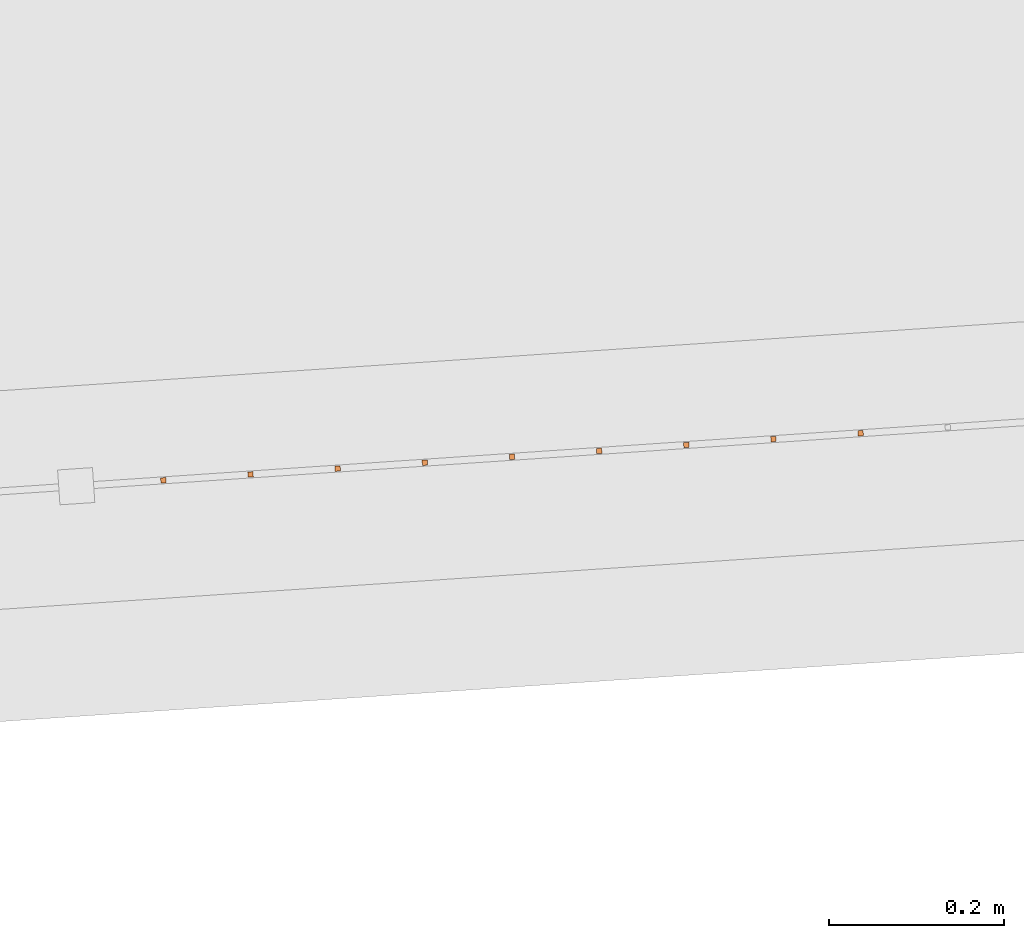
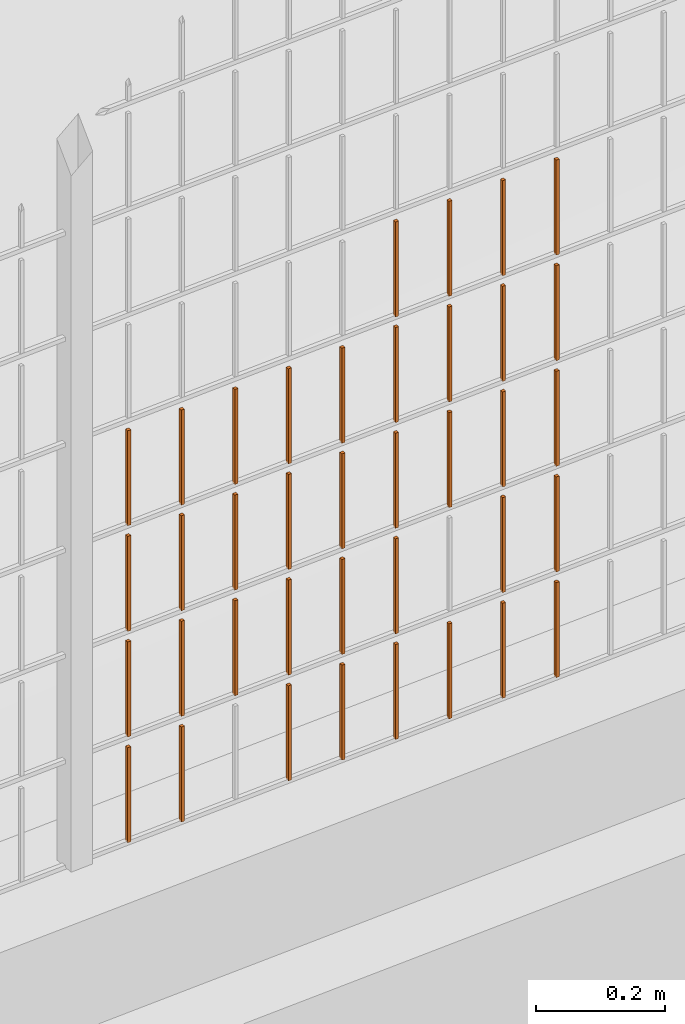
# One storey, part 112 of 1809: 38 proxies, 1 element without a shape of its own.
"""IFC2X3 building model written with IfcOpenShell, lengths in millimetres."""

from ifc_helpers import new_model, entity, si_unit, converted_unit, derived_unit, money_unit, direction, frame, origin_with_axes, place, context, subcontext, project, spatial, faceted_brep, source, transform, mapped, material, type_object, element, aggregate, save


model = new_model("IFC2X3")

# Units and contexts
model_context = context("Model", 3, precision=0.01, world=origin_with_axes(), true_north=direction((0.0, 1.0)))
body_context = subcontext(model_context, "Body", "Model", "MODEL_VIEW")
ifc_project = project(units=[si_unit("LENGTHUNIT", "METRE", prefix="MILLI"), si_unit("AREAUNIT", "SQUARE_METRE"), si_unit("VOLUMEUNIT", "CUBIC_METRE"), converted_unit("PLANEANGLEUNIT", "DEGREE", entity("IfcPlaneAngleMeasure", 0.0174532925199), si_unit("PLANEANGLEUNIT", "RADIAN"), dimensions=[0, 0, 0, 0, 0, 0, 0]), si_unit("SOLIDANGLEUNIT", "STERADIAN"), money_unit("EUR"), converted_unit("TIMEUNIT", "Year", entity("IfcTimeMeasure", 31556926.0), si_unit("TIMEUNIT", "SECOND"), dimensions=[0, 0, 1, 0, 0, 0, 0]), si_unit("MASSUNIT", "GRAM", prefix="KILO"), si_unit("THERMODYNAMICTEMPERATUREUNIT", "DEGREE_CELSIUS"), si_unit("LUMINOUSINTENSITYUNIT", "LUMEN"), si_unit("ENERGYUNIT", "JOULE", prefix="MEGA"), derived_unit("THERMALCONDUCTANCEUNIT", [(si_unit("POWERUNIT", "WATT"), 1), (si_unit("LENGTHUNIT", "METRE"), -1), (si_unit("THERMODYNAMICTEMPERATUREUNIT", "KELVIN"), -1)]), derived_unit("SPECIFICHEATCAPACITYUNIT", [(si_unit("ENERGYUNIT", "JOULE"), 1), (si_unit("MASSUNIT", "GRAM", prefix="KILO"), -1), (si_unit("THERMODYNAMICTEMPERATUREUNIT", "KELVIN"), -1)]), derived_unit("MASSDENSITYUNIT", [(si_unit("MASSUNIT", "GRAM", prefix="KILO"), 1), (si_unit("VOLUMEUNIT", "CUBIC_METRE"), -1)])], contexts=[model_context])

# Site, building, storey
site_placement = place(None, origin_with_axes())
site = spatial("IfcSite", under=ifc_project, at=site_placement, Name="Politse- ja Piirivalveameti ning Päästeameti ühishoone", CompositionType="ELEMENT")
building_placement = place(site_placement, origin_with_axes())
building = spatial("IfcBuilding", under=site, at=building_placement, Name="Politse- ja Piirivalveameti ning Päästeameti ühishoone", CompositionType="ELEMENT")
storey_placement = place(building_placement, origin_with_axes())
storey = spatial("IfcBuildingStorey", under=building, at=storey_placement, Name="Esimene korrus", CompositionType="ELEMENT", Elevation=0.0)

# Proxies
building_element_proxy_type_1 = type_object("IfcBuildingElementProxyType", Name="Railing Type", PredefinedType="NOTDEFINED")
proxy_1_placement = place(storey_placement, frame((89252.001212, -29183.4766571, 203.661247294), z_axis=(0.0, 0.0, 1.0), x_axis=(1.0, 0.0, 0.0)))
proxy_1 = element("IfcBuildingElementProxy", 1, at=proxy_1_placement, inside=storey, type_object=building_element_proxy_type_1, Name="PIIRDEAED")
ifc_material = material(Name="ET-03_Raud")
building_element_proxy_type_2 = type_object("IfcBuildingElementProxyType", Name="IfcBuildingElementProxy", PredefinedType="NOTDEFINED")
shared_shape_1 = source(origin_with_axes(), body_context, "Body", "Brep", [
    faceted_brep([(3.0, 3.0, -0.000752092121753), (-3.0, 3.0, -0.000752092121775), (-3.0, 3.0, 179.99926046), (3.0, 3.0, 179.99926046), (3.0, -3.0, 0.000752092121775), (-3.0, -3.0, 0.000752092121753), (-3.0, -3.0, 180.000764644), (3.0, -3.0, 180.000764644)], [[[0, 1, 2, 3]], [[0, 4, 5, 1]], [[1, 5, 6, 2]], [[3, 2, 6, 7]], [[4, 0, 3, 7]], [[5, 4, 7, 6]]]),
])
proxy_2_placement = place(proxy_1_placement, frame((-91318.6048115, -23466.0018926, 204.288885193), z_axis=(0.0, 0.0, 1.0), x_axis=(1.0, 0.0, 0.0)))
proxy_2 = element("IfcBuildingElementProxy", 2, at=proxy_2_placement, type_object=building_element_proxy_type_2, material=ifc_material, Name="BALUSTER - 001", context=body_context, shape_type="MappedRepresentation", body=[
    mapped(shared_shape_1, transform((0.0, 0.0, 0.0), x_axis=(-0.0673926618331, 0.997726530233, 0.0), y_axis=(-0.997726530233, -0.0673926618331, 0.0), z_axis=(0.0, 0.0, 1.0))),
])
proxy_3_placement = place(proxy_1_placement, frame((-91917.2407297, -23506.4374897, 604.138466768), z_axis=(0.0, 0.0, 1.0), x_axis=(1.0, 0.0, 0.0)))
proxy_3 = element("IfcBuildingElementProxy", 3, at=proxy_3_placement, type_object=building_element_proxy_type_2, material=ifc_material, Name="BALUSTER - 001", context=body_context, shape_type="MappedRepresentation", body=[
    mapped(shared_shape_1, transform((0.0, 0.0, 0.0), x_axis=(-0.0673926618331, 0.997726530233, 0.0), y_axis=(-0.997726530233, -0.0673926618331, 0.0), z_axis=(0.0, 0.0, 1.0))),
])
shared_shape_2 = source(origin_with_axes(), body_context, "Body", "Brep", [
    faceted_brep([(3.0, 3.0, -0.000752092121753), (-3.0, 3.0, -0.000752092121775), (-3.0, 3.0, 179.99926046), (3.0, 3.0, 179.99926046), (3.0, -3.0, 0.000752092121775), (-3.0, -3.0, 0.000752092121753), (-3.0, -3.0, 180.000764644), (3.0, -3.0, 180.000764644)], [[[0, 1, 2, 3]], [[0, 4, 5, 1]], [[1, 5, 6, 2]], [[3, 2, 6, 7]], [[4, 0, 3, 7]], [[5, 4, 7, 6]]]),
])
proxy_4_placement = place(proxy_1_placement, frame((-91318.6048115, -23466.0018926, 804.288885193), z_axis=(0.0, 0.0, 1.0), x_axis=(1.0, 0.0, 0.0)))
proxy_4 = element("IfcBuildingElementProxy", 4, at=proxy_4_placement, type_object=building_element_proxy_type_2, material=ifc_material, Name="BALUSTER - 001", context=body_context, shape_type="MappedRepresentation", body=[
    mapped(shared_shape_2, transform((0.0, 0.0, 0.0), x_axis=(-0.0673926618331, 0.997726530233, 0.0), y_axis=(-0.997726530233, -0.0673926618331, 0.0), z_axis=(0.0, 0.0, 1.0))),
])
shared_shape_3 = source(origin_with_axes(), body_context, "Body", "Brep", [
    faceted_brep([(3.0, 3.0, -0.000752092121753), (-3.0, 3.0, -0.000752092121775), (-3.0, 3.0, 179.99926046), (3.0, 3.0, 179.99926046), (3.0, -3.0, 0.000752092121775), (-3.0, -3.0, 0.000752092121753), (-3.0, -3.0, 180.000764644), (3.0, -3.0, 180.000764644)], [[[0, 1, 2, 3]], [[0, 4, 5, 1]], [[1, 5, 6, 2]], [[3, 2, 6, 7]], [[4, 0, 3, 7]], [[5, 4, 7, 6]]]),
])
proxy_5_placement = place(proxy_1_placement, frame((-91418.3774645, -23472.7411588, 804.263815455), z_axis=(0.0, 0.0, 1.0), x_axis=(1.0, 0.0, 0.0)))
proxy_5 = element("IfcBuildingElementProxy", 5, at=proxy_5_placement, type_object=building_element_proxy_type_2, material=ifc_material, Name="BALUSTER - 001", context=body_context, shape_type="MappedRepresentation", body=[
    mapped(shared_shape_3, transform((0.0, 0.0, 0.0), x_axis=(-0.0673926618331, 0.997726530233, 0.0), y_axis=(-0.997726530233, -0.0673926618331, 0.0), z_axis=(0.0, 0.0, 1.0))),
])
shared_shape_4 = source(origin_with_axes(), body_context, "Body", "Brep", [
    faceted_brep([(3.0, 3.0, -0.000752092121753), (-3.0, 3.0, -0.000752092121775), (-3.0, 3.0, 179.99926046), (3.0, 3.0, 179.99926046), (3.0, -3.0, 0.000752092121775), (-3.0, -3.0, 0.000752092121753), (-3.0, -3.0, 180.000764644), (3.0, -3.0, 180.000764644)], [[[0, 1, 2, 3]], [[0, 4, 5, 1]], [[1, 5, 6, 2]], [[3, 2, 6, 7]], [[4, 0, 3, 7]], [[5, 4, 7, 6]]]),
])
proxy_6_placement = place(proxy_1_placement, frame((-91917.2407297, -23506.4374897, 204.138466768), z_axis=(0.0, 0.0, 1.0), x_axis=(1.0, 0.0, 0.0)))
proxy_6 = element("IfcBuildingElementProxy", 6, at=proxy_6_placement, type_object=building_element_proxy_type_2, material=ifc_material, Name="BALUSTER - 001", context=body_context, shape_type="MappedRepresentation", body=[
    mapped(shared_shape_4, transform((0.0, 0.0, 0.0), x_axis=(-0.0673926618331, 0.997726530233, 0.0), y_axis=(-0.997726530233, -0.0673926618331, 0.0), z_axis=(0.0, 0.0, 1.0))),
])
proxy_7_placement = place(proxy_1_placement, frame((-91318.6048115, -23466.0018926, 404.288885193), z_axis=(0.0, 0.0, 1.0), x_axis=(1.0, 0.0, 0.0)))
proxy_7 = element("IfcBuildingElementProxy", 7, at=proxy_7_placement, type_object=building_element_proxy_type_2, material=ifc_material, Name="BALUSTER - 001", context=body_context, shape_type="MappedRepresentation", body=[
    mapped(shared_shape_4, transform((0.0, 0.0, 0.0), x_axis=(-0.0673926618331, 0.997726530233, 0.0), y_axis=(-0.997726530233, -0.0673926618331, 0.0), z_axis=(0.0, 0.0, 1.0))),
])
proxy_8_placement = place(proxy_1_placement, frame((-91917.2407297, -23506.4374897, 404.138466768), z_axis=(0.0, 0.0, 1.0), x_axis=(1.0, 0.0, 0.0)))
proxy_8 = element("IfcBuildingElementProxy", 8, at=proxy_8_placement, type_object=building_element_proxy_type_2, material=ifc_material, Name="BALUSTER - 001", context=body_context, shape_type="MappedRepresentation", body=[
    mapped(shared_shape_4, transform((0.0, 0.0, 0.0), x_axis=(-0.0673926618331, 0.997726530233, 0.0), y_axis=(-0.997726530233, -0.0673926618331, 0.0), z_axis=(0.0, 0.0, 1.0))),
])
proxy_9_placement = place(proxy_1_placement, frame((-91318.6048115, -23466.0018926, 604.288885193), z_axis=(0.0, 0.0, 1.0), x_axis=(1.0, 0.0, 0.0)))
proxy_9 = element("IfcBuildingElementProxy", 9, at=proxy_9_placement, type_object=building_element_proxy_type_2, material=ifc_material, Name="BALUSTER - 001", context=body_context, shape_type="MappedRepresentation", body=[
    mapped(shared_shape_4, transform((0.0, 0.0, 0.0), x_axis=(-0.0673926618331, 0.997726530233, 0.0), y_axis=(-0.997726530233, -0.0673926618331, 0.0), z_axis=(0.0, 0.0, 1.0))),
])
shared_shape_5 = source(origin_with_axes(), body_context, "Body", "Brep", [
    faceted_brep([(3.0, 3.0, -0.000752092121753), (-3.0, 3.0, -0.000752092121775), (-3.0, 3.0, 179.99926046), (3.0, 3.0, 179.99926046), (3.0, -3.0, 0.000752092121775), (-3.0, -3.0, 0.000752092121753), (-3.0, -3.0, 180.000764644), (3.0, -3.0, 180.000764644)], [[[0, 1, 2, 3]], [[0, 4, 5, 1]], [[1, 5, 6, 2]], [[3, 2, 6, 7]], [[4, 0, 3, 7]], [[5, 4, 7, 6]]]),
])
proxy_10_placement = place(proxy_1_placement, frame((-92017.0133827, -23513.1767559, 404.113397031), z_axis=(0.0, 0.0, 1.0), x_axis=(1.0, 0.0, 0.0)))
proxy_10 = element("IfcBuildingElementProxy", 10, at=proxy_10_placement, type_object=building_element_proxy_type_2, material=ifc_material, Name="BALUSTER - 001", context=body_context, shape_type="MappedRepresentation", body=[
    mapped(shared_shape_5, transform((0.0, 0.0, 0.0), x_axis=(-0.0673926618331, 0.997726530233, 0.0), y_axis=(-0.997726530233, -0.0673926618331, 0.0), z_axis=(0.0, 0.0, 1.0))),
])
proxy_11_placement = place(proxy_1_placement, frame((-92017.0133827, -23513.1767559, 604.113397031), z_axis=(0.0, 0.0, 1.0), x_axis=(1.0, 0.0, 0.0)))
proxy_11 = element("IfcBuildingElementProxy", 11, at=proxy_11_placement, type_object=building_element_proxy_type_2, material=ifc_material, Name="BALUSTER - 001", context=body_context, shape_type="MappedRepresentation", body=[
    mapped(shared_shape_5, transform((0.0, 0.0, 0.0), x_axis=(-0.0673926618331, 0.997726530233, 0.0), y_axis=(-0.997726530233, -0.0673926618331, 0.0), z_axis=(0.0, 0.0, 1.0))),
])
shared_shape_6 = source(origin_with_axes(), body_context, "Body", "Brep", [
    faceted_brep([(3.0, 3.0, -0.000752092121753), (-3.0, 3.0, -0.000752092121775), (-3.0, 3.0, 179.99926046), (3.0, 3.0, 179.99926046), (3.0, -3.0, 0.000752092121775), (-3.0, -3.0, 0.000752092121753), (-3.0, -3.0, 180.000764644), (3.0, -3.0, 180.000764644)], [[[0, 1, 2, 3]], [[0, 4, 5, 1]], [[1, 5, 6, 2]], [[3, 2, 6, 7]], [[4, 0, 3, 7]], [[5, 4, 7, 6]]]),
])
proxy_12_placement = place(proxy_1_placement, frame((-92017.0133827, -23513.1767559, 4.11339703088), z_axis=(0.0, 0.0, 1.0), x_axis=(1.0, 0.0, 0.0)))
proxy_12 = element("IfcBuildingElementProxy", 12, at=proxy_12_placement, type_object=building_element_proxy_type_2, material=ifc_material, Name="BALUSTER - 001", context=body_context, shape_type="MappedRepresentation", body=[
    mapped(shared_shape_6, transform((0.0, 0.0, 0.0), x_axis=(-0.0673926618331, 0.997726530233, 0.0), y_axis=(-0.997726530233, -0.0673926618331, 0.0), z_axis=(0.0, 0.0, 1.0))),
])
shared_shape_7 = source(origin_with_axes(), body_context, "Body", "Brep", [
    faceted_brep([(3.0, 3.0, -0.000752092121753), (-3.0, 3.0, -0.000752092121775), (-3.0, 3.0, 179.99926046), (3.0, 3.0, 179.99926046), (3.0, -3.0, 0.000752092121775), (-3.0, -3.0, 0.000752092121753), (-3.0, -3.0, 180.000764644), (3.0, -3.0, 180.000764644)], [[[0, 1, 2, 3]], [[0, 4, 5, 1]], [[1, 5, 6, 2]], [[3, 2, 6, 7]], [[4, 0, 3, 7]], [[5, 4, 7, 6]]]),
])
proxy_13_placement = place(proxy_1_placement, frame((-92017.0133827, -23513.1767559, 204.113397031), z_axis=(0.0, 0.0, 1.0), x_axis=(1.0, 0.0, 0.0)))
proxy_13 = element("IfcBuildingElementProxy", 13, at=proxy_13_placement, type_object=building_element_proxy_type_2, material=ifc_material, Name="BALUSTER - 001", context=body_context, shape_type="MappedRepresentation", body=[
    mapped(shared_shape_7, transform((0.0, 0.0, 0.0), x_axis=(-0.0673926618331, 0.997726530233, 0.0), y_axis=(-0.997726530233, -0.0673926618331, 0.0), z_axis=(0.0, 0.0, 1.0))),
])
shared_shape_8 = source(origin_with_axes(), body_context, "Body", "Brep", [
    faceted_brep([(3.0, 3.0, -0.000752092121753), (-3.0, 3.0, -0.000752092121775), (-3.0, 3.0, 179.99926046), (3.0, 3.0, 179.99926046), (3.0, -3.0, 0.000752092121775), (-3.0, -3.0, 0.000752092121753), (-3.0, -3.0, 180.000764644), (3.0, -3.0, 180.000764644)], [[[0, 1, 2, 3]], [[0, 4, 5, 1]], [[1, 5, 6, 2]], [[3, 2, 6, 7]], [[4, 0, 3, 7]], [[5, 4, 7, 6]]]),
])
proxy_14_placement = place(proxy_1_placement, frame((-91318.6048115, -23466.0018926, 4.28888519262), z_axis=(0.0, 0.0, 1.0), x_axis=(1.0, 0.0, 0.0)))
proxy_14 = element("IfcBuildingElementProxy", 14, at=proxy_14_placement, type_object=building_element_proxy_type_2, material=ifc_material, Name="BALUSTER - 001", context=body_context, shape_type="MappedRepresentation", body=[
    mapped(shared_shape_8, transform((0.0, 0.0, 0.0), x_axis=(-0.0673926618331, 0.997726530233, 0.0), y_axis=(-0.997726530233, -0.0673926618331, 0.0), z_axis=(0.0, 0.0, 1.0))),
])
proxy_15_placement = place(proxy_1_placement, frame((-91917.2407297, -23506.4374897, 4.13846676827), z_axis=(0.0, 0.0, 1.0), x_axis=(1.0, 0.0, 0.0)))
proxy_15 = element("IfcBuildingElementProxy", 15, at=proxy_15_placement, type_object=building_element_proxy_type_2, material=ifc_material, Name="BALUSTER - 001", context=body_context, shape_type="MappedRepresentation", body=[
    mapped(shared_shape_8, transform((0.0, 0.0, 0.0), x_axis=(-0.0673926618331, 0.997726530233, 0.0), y_axis=(-0.997726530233, -0.0673926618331, 0.0), z_axis=(0.0, 0.0, 1.0))),
])
shared_shape_9 = source(origin_with_axes(), body_context, "Body", "Brep", [
    faceted_brep([(3.0, 3.0, -0.000752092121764), (-3.0, 3.0, -0.000752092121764), (-3.0, 3.0, 179.99926046), (3.0, 3.0, 179.99926046), (3.0, -3.0, 0.000752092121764), (-3.0, -3.0, 0.000752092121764), (-3.0, -3.0, 180.000764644), (3.0, -3.0, 180.000764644)], [[[0, 1, 2, 3]], [[0, 4, 5, 1]], [[1, 5, 6, 2]], [[3, 2, 6, 7]], [[4, 0, 3, 7]], [[5, 4, 7, 6]]]),
])
proxy_16_placement = place(proxy_1_placement, frame((-91218.8321585, -23459.2626265, 4.31395493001), z_axis=(0.0, 0.0, 1.0), x_axis=(1.0, 0.0, 0.0)))
proxy_16 = element("IfcBuildingElementProxy", 16, at=proxy_16_placement, type_object=building_element_proxy_type_2, material=ifc_material, Name="BALUSTER - 001", context=body_context, shape_type="MappedRepresentation", body=[
    mapped(shared_shape_9, transform((0.0, 0.0, 0.0), x_axis=(-0.0673926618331, 0.997726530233, 0.0), y_axis=(-0.997726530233, -0.0673926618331, 0.0), z_axis=(0.0, 0.0, 1.0))),
])
shared_shape_10 = source(origin_with_axes(), body_context, "Body", "Brep", [
    faceted_brep([(3.0, 3.0, -0.000752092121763), (-3.0, 3.0, -0.000752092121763), (-3.0, 3.0, 179.99926046), (3.0, 3.0, 179.99926046), (3.0, -3.0, 0.000752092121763), (-3.0, -3.0, 0.000752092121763), (-3.0, -3.0, 180.000764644), (3.0, -3.0, 180.000764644)], [[[0, 1, 2, 3]], [[0, 4, 5, 1]], [[1, 5, 6, 2]], [[3, 2, 6, 7]], [[4, 0, 3, 7]], [[5, 4, 7, 6]]]),
])
proxy_17_placement = place(proxy_1_placement, frame((-91518.1501176, -23479.480425, 404.238745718), z_axis=(0.0, 0.0, 1.0), x_axis=(1.0, 0.0, 0.0)))
proxy_17 = element("IfcBuildingElementProxy", 17, at=proxy_17_placement, type_object=building_element_proxy_type_2, material=ifc_material, Name="BALUSTER - 001", context=body_context, shape_type="MappedRepresentation", body=[
    mapped(shared_shape_10, transform((0.0, 0.0, 0.0), x_axis=(-0.0673926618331, 0.997726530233, 0.0), y_axis=(-0.997726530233, -0.0673926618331, 0.0), z_axis=(0.0, 0.0, 1.0))),
])
shared_shape_11 = source(origin_with_axes(), body_context, "Body", "Brep", [
    faceted_brep([(3.0, 3.0, -0.000752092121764), (-3.0, 3.0, -0.000752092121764), (-3.0, 3.0, 179.99926046), (3.0, 3.0, 179.99926046), (3.0, -3.0, 0.000752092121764), (-3.0, -3.0, 0.000752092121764), (-3.0, -3.0, 180.000764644), (3.0, -3.0, 180.000764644)], [[[0, 1, 2, 3]], [[0, 4, 5, 1]], [[1, 5, 6, 2]], [[3, 2, 6, 7]], [[4, 0, 3, 7]], [[5, 4, 7, 6]]]),
])
proxy_18_placement = place(proxy_1_placement, frame((-91218.8321585, -23459.2626265, 804.31395493), z_axis=(0.0, 0.0, 1.0), x_axis=(1.0, 0.0, 0.0)))
proxy_18 = element("IfcBuildingElementProxy", 18, at=proxy_18_placement, type_object=building_element_proxy_type_2, material=ifc_material, Name="BALUSTER - 001", context=body_context, shape_type="MappedRepresentation", body=[
    mapped(shared_shape_11, transform((0.0, 0.0, 0.0), x_axis=(-0.0673926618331, 0.997726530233, 0.0), y_axis=(-0.997726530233, -0.0673926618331, 0.0), z_axis=(0.0, 0.0, 1.0))),
])
shared_shape_12 = source(origin_with_axes(), body_context, "Body", "Brep", [
    faceted_brep([(3.0, 3.0, -0.000752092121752), (-3.0, 3.0, -0.000752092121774), (-3.0, 3.0, 179.99926046), (3.0, 3.0, 179.99926046), (3.0, -3.0, 0.000752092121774), (-3.0, -3.0, 0.000752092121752), (-3.0, -3.0, 180.000764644), (3.0, -3.0, 180.000764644)], [[[0, 1, 2, 3]], [[0, 4, 5, 1]], [[1, 5, 6, 2]], [[3, 2, 6, 7]], [[4, 0, 3, 7]], [[5, 4, 7, 6]]]),
])
proxy_19_placement = place(proxy_1_placement, frame((-91717.6954236, -23492.9589574, 204.188606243), z_axis=(0.0, 0.0, 1.0), x_axis=(1.0, 0.0, 0.0)))
proxy_19 = element("IfcBuildingElementProxy", 19, at=proxy_19_placement, type_object=building_element_proxy_type_2, material=ifc_material, Name="BALUSTER - 001", context=body_context, shape_type="MappedRepresentation", body=[
    mapped(shared_shape_12, transform((0.0, 0.0, 0.0), x_axis=(-0.0673926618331, 0.997726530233, 0.0), y_axis=(-0.997726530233, -0.0673926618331, 0.0), z_axis=(0.0, 0.0, 1.0))),
])
proxy_20_placement = place(proxy_1_placement, frame((-91418.3774645, -23472.7411588, 404.263815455), z_axis=(0.0, 0.0, 1.0), x_axis=(1.0, 0.0, 0.0)))
proxy_20 = element("IfcBuildingElementProxy", 20, at=proxy_20_placement, type_object=building_element_proxy_type_2, material=ifc_material, Name="BALUSTER - 001", context=body_context, shape_type="MappedRepresentation", body=[
    mapped(shared_shape_12, transform((0.0, 0.0, 0.0), x_axis=(-0.0673926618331, 0.997726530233, 0.0), y_axis=(-0.997726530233, -0.0673926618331, 0.0), z_axis=(0.0, 0.0, 1.0))),
])
proxy_21_placement = place(proxy_1_placement, frame((-91717.6954236, -23492.9589574, 404.188606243), z_axis=(0.0, 0.0, 1.0), x_axis=(1.0, 0.0, 0.0)))
proxy_21 = element("IfcBuildingElementProxy", 21, at=proxy_21_placement, type_object=building_element_proxy_type_2, material=ifc_material, Name="BALUSTER - 001", context=body_context, shape_type="MappedRepresentation", body=[
    mapped(shared_shape_12, transform((0.0, 0.0, 0.0), x_axis=(-0.0673926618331, 0.997726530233, 0.0), y_axis=(-0.997726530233, -0.0673926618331, 0.0), z_axis=(0.0, 0.0, 1.0))),
])
proxy_22_placement = place(proxy_1_placement, frame((-91418.3774645, -23472.7411588, 604.263815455), z_axis=(0.0, 0.0, 1.0), x_axis=(1.0, 0.0, 0.0)))
proxy_22 = element("IfcBuildingElementProxy", 22, at=proxy_22_placement, type_object=building_element_proxy_type_2, material=ifc_material, Name="BALUSTER - 001", context=body_context, shape_type="MappedRepresentation", body=[
    mapped(shared_shape_12, transform((0.0, 0.0, 0.0), x_axis=(-0.0673926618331, 0.997726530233, 0.0), y_axis=(-0.997726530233, -0.0673926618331, 0.0), z_axis=(0.0, 0.0, 1.0))),
])
proxy_23_placement = place(proxy_1_placement, frame((-91717.6954236, -23492.9589574, 604.188606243), z_axis=(0.0, 0.0, 1.0), x_axis=(1.0, 0.0, 0.0)))
proxy_23 = element("IfcBuildingElementProxy", 23, at=proxy_23_placement, type_object=building_element_proxy_type_2, material=ifc_material, Name="BALUSTER - 001", context=body_context, shape_type="MappedRepresentation", body=[
    mapped(shared_shape_12, transform((0.0, 0.0, 0.0), x_axis=(-0.0673926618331, 0.997726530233, 0.0), y_axis=(-0.997726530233, -0.0673926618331, 0.0), z_axis=(0.0, 0.0, 1.0))),
])
shared_shape_13 = source(origin_with_axes(), body_context, "Body", "Brep", [
    faceted_brep([(3.0, 3.0, -0.000752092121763), (-3.0, 3.0, -0.000752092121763), (-3.0, 3.0, 179.99926046), (3.0, 3.0, 179.99926046), (3.0, -3.0, 0.000752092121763), (-3.0, -3.0, 0.000752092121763), (-3.0, -3.0, 180.000764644), (3.0, -3.0, 180.000764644)], [[[0, 1, 2, 3]], [[0, 4, 5, 1]], [[1, 5, 6, 2]], [[3, 2, 6, 7]], [[4, 0, 3, 7]], [[5, 4, 7, 6]]]),
])
proxy_24_placement = place(proxy_1_placement, frame((-91518.1501176, -23479.480425, 604.238745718), z_axis=(0.0, 0.0, 1.0), x_axis=(1.0, 0.0, 0.0)))
proxy_24 = element("IfcBuildingElementProxy", 24, at=proxy_24_placement, type_object=building_element_proxy_type_2, material=ifc_material, Name="BALUSTER - 001", context=body_context, shape_type="MappedRepresentation", body=[
    mapped(shared_shape_13, transform((0.0, 0.0, 0.0), x_axis=(-0.0673926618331, 0.997726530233, 0.0), y_axis=(-0.997726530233, -0.0673926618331, 0.0), z_axis=(0.0, 0.0, 1.0))),
])
shared_shape_14 = source(origin_with_axes(), body_context, "Body", "Brep", [
    faceted_brep([(3.0, 3.0, -0.000752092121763), (-3.0, 3.0, -0.000752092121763), (-3.0, 3.0, 179.99926046), (3.0, 3.0, 179.99926046), (3.0, -3.0, 0.000752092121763), (-3.0, -3.0, 0.000752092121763), (-3.0, -3.0, 180.000764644), (3.0, -3.0, 180.000764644)], [[[0, 1, 2, 3]], [[0, 4, 5, 1]], [[1, 5, 6, 2]], [[3, 2, 6, 7]], [[4, 0, 3, 7]], [[5, 4, 7, 6]]]),
])
proxy_25_placement = place(proxy_1_placement, frame((-91518.1501176, -23479.480425, 804.238745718), z_axis=(0.0, 0.0, 1.0), x_axis=(1.0, 0.0, 0.0)))
proxy_25 = element("IfcBuildingElementProxy", 25, at=proxy_25_placement, type_object=building_element_proxy_type_2, material=ifc_material, Name="BALUSTER - 001", context=body_context, shape_type="MappedRepresentation", body=[
    mapped(shared_shape_14, transform((0.0, 0.0, 0.0), x_axis=(-0.0673926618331, 0.997726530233, 0.0), y_axis=(-0.997726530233, -0.0673926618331, 0.0), z_axis=(0.0, 0.0, 1.0))),
])
shared_shape_15 = source(origin_with_axes(), body_context, "Body", "Brep", [
    faceted_brep([(3.0, 3.0, -0.000752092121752), (-3.0, 3.0, -0.000752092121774), (-3.0, 3.0, 179.99926046), (3.0, 3.0, 179.99926046), (3.0, -3.0, 0.000752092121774), (-3.0, -3.0, 0.000752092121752), (-3.0, -3.0, 180.000764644), (3.0, -3.0, 180.000764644)], [[[0, 1, 2, 3]], [[0, 4, 5, 1]], [[1, 5, 6, 2]], [[3, 2, 6, 7]], [[4, 0, 3, 7]], [[5, 4, 7, 6]]]),
])
proxy_26_placement = place(proxy_1_placement, frame((-91418.3774645, -23472.7411588, 4.26381545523), z_axis=(0.0, 0.0, 1.0), x_axis=(1.0, 0.0, 0.0)))
proxy_26 = element("IfcBuildingElementProxy", 26, at=proxy_26_placement, type_object=building_element_proxy_type_2, material=ifc_material, Name="BALUSTER - 001", context=body_context, shape_type="MappedRepresentation", body=[
    mapped(shared_shape_15, transform((0.0, 0.0, 0.0), x_axis=(-0.0673926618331, 0.997726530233, 0.0), y_axis=(-0.997726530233, -0.0673926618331, 0.0), z_axis=(0.0, 0.0, 1.0))),
])
shared_shape_16 = source(origin_with_axes(), body_context, "Body", "Brep", [
    faceted_brep([(3.0, 3.0, -0.000752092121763), (-3.0, 3.0, -0.000752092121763), (-3.0, 3.0, 179.99926046), (3.0, 3.0, 179.99926046), (3.0, -3.0, 0.000752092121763), (-3.0, -3.0, 0.000752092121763), (-3.0, -3.0, 180.000764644), (3.0, -3.0, 180.000764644)], [[[0, 1, 2, 3]], [[0, 4, 5, 1]], [[1, 5, 6, 2]], [[3, 2, 6, 7]], [[4, 0, 3, 7]], [[5, 4, 7, 6]]]),
])
proxy_27_placement = place(proxy_1_placement, frame((-91518.1501176, -23479.480425, 4.23874571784), z_axis=(0.0, 0.0, 1.0), x_axis=(1.0, 0.0, 0.0)))
proxy_27 = element("IfcBuildingElementProxy", 27, at=proxy_27_placement, type_object=building_element_proxy_type_2, material=ifc_material, Name="BALUSTER - 001", context=body_context, shape_type="MappedRepresentation", body=[
    mapped(shared_shape_16, transform((0.0, 0.0, 0.0), x_axis=(-0.0673926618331, 0.997726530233, 0.0), y_axis=(-0.997726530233, -0.0673926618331, 0.0), z_axis=(0.0, 0.0, 1.0))),
])
proxy_28_placement = place(proxy_1_placement, frame((-91518.1501176, -23479.480425, 204.238745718), z_axis=(0.0, 0.0, 1.0), x_axis=(1.0, 0.0, 0.0)))
proxy_28 = element("IfcBuildingElementProxy", 28, at=proxy_28_placement, type_object=building_element_proxy_type_2, material=ifc_material, Name="BALUSTER - 001", context=body_context, shape_type="MappedRepresentation", body=[
    mapped(shared_shape_16, transform((0.0, 0.0, 0.0), x_axis=(-0.0673926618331, 0.997726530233, 0.0), y_axis=(-0.997726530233, -0.0673926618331, 0.0), z_axis=(0.0, 0.0, 1.0))),
])
shared_shape_17 = source(origin_with_axes(), body_context, "Body", "Brep", [
    faceted_brep([(3.0, 3.0, -0.000752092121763), (-3.0, 3.0, -0.000752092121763), (-3.0, 3.0, 179.99926046), (3.0, 3.0, 179.99926046), (3.0, -3.0, 0.000752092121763), (-3.0, -3.0, 0.000752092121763), (-3.0, -3.0, 180.000764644), (3.0, -3.0, 180.000764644)], [[[0, 1, 2, 3]], [[0, 4, 5, 1]], [[1, 5, 6, 2]], [[3, 2, 6, 7]], [[4, 0, 3, 7]], [[5, 4, 7, 6]]]),
])
proxy_29_placement = place(proxy_1_placement, frame((-91617.9227706, -23486.2196912, 4.21367598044), z_axis=(0.0, 0.0, 1.0), x_axis=(1.0, 0.0, 0.0)))
proxy_29 = element("IfcBuildingElementProxy", 29, at=proxy_29_placement, type_object=building_element_proxy_type_2, material=ifc_material, Name="BALUSTER - 001", context=body_context, shape_type="MappedRepresentation", body=[
    mapped(shared_shape_17, transform((0.0, 0.0, 0.0), x_axis=(-0.0673926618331, 0.997726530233, 0.0), y_axis=(-0.997726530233, -0.0673926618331, 0.0), z_axis=(0.0, 0.0, 1.0))),
])
shared_shape_18 = source(origin_with_axes(), body_context, "Body", "Brep", [
    faceted_brep([(3.0, 3.0, -0.000752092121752), (-3.0, 3.0, -0.000752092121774), (-3.0, 3.0, 179.99926046), (3.0, 3.0, 179.99926046), (3.0, -3.0, 0.000752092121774), (-3.0, -3.0, 0.000752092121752), (-3.0, -3.0, 180.000764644), (3.0, -3.0, 180.000764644)], [[[0, 1, 2, 3]], [[0, 4, 5, 1]], [[1, 5, 6, 2]], [[3, 2, 6, 7]], [[4, 0, 3, 7]], [[5, 4, 7, 6]]]),
])
proxy_30_placement = place(proxy_1_placement, frame((-91717.6954236, -23492.9589574, 4.18860624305), z_axis=(0.0, 0.0, 1.0), x_axis=(1.0, 0.0, 0.0)))
proxy_30 = element("IfcBuildingElementProxy", 30, at=proxy_30_placement, type_object=building_element_proxy_type_2, material=ifc_material, Name="BALUSTER - 001", context=body_context, shape_type="MappedRepresentation", body=[
    mapped(shared_shape_18, transform((0.0, 0.0, 0.0), x_axis=(-0.0673926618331, 0.997726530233, 0.0), y_axis=(-0.997726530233, -0.0673926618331, 0.0), z_axis=(0.0, 0.0, 1.0))),
])
shared_shape_19 = source(origin_with_axes(), body_context, "Body", "Brep", [
    faceted_brep([(3.0, 3.0, -0.000752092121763), (-3.0, 3.0, -0.000752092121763), (-3.0, 3.0, 179.99926046), (3.0, 3.0, 179.99926046), (3.0, -3.0, 0.000752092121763), (-3.0, -3.0, 0.000752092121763), (-3.0, -3.0, 180.000764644), (3.0, -3.0, 180.000764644)], [[[0, 1, 2, 3]], [[0, 4, 5, 1]], [[1, 5, 6, 2]], [[3, 2, 6, 7]], [[4, 0, 3, 7]], [[5, 4, 7, 6]]]),
])
proxy_31_placement = place(proxy_1_placement, frame((-91617.9227706, -23486.2196912, 404.21367598), z_axis=(0.0, 0.0, 1.0), x_axis=(1.0, 0.0, 0.0)))
proxy_31 = element("IfcBuildingElementProxy", 31, at=proxy_31_placement, type_object=building_element_proxy_type_2, material=ifc_material, Name="BALUSTER - 001", context=body_context, shape_type="MappedRepresentation", body=[
    mapped(shared_shape_19, transform((0.0, 0.0, 0.0), x_axis=(-0.0673926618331, 0.997726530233, 0.0), y_axis=(-0.997726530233, -0.0673926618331, 0.0), z_axis=(0.0, 0.0, 1.0))),
])
proxy_32_placement = place(proxy_1_placement, frame((-91617.9227706, -23486.2196912, 604.21367598), z_axis=(0.0, 0.0, 1.0), x_axis=(1.0, 0.0, 0.0)))
proxy_32 = element("IfcBuildingElementProxy", 32, at=proxy_32_placement, type_object=building_element_proxy_type_2, material=ifc_material, Name="BALUSTER - 001", context=body_context, shape_type="MappedRepresentation", body=[
    mapped(shared_shape_19, transform((0.0, 0.0, 0.0), x_axis=(-0.0673926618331, 0.997726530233, 0.0), y_axis=(-0.997726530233, -0.0673926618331, 0.0), z_axis=(0.0, 0.0, 1.0))),
])
shared_shape_20 = source(origin_with_axes(), body_context, "Body", "Brep", [
    faceted_brep([(3.0, 3.0, -0.000752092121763), (-3.0, 3.0, -0.000752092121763), (-3.0, 3.0, 179.99926046), (3.0, 3.0, 179.99926046), (3.0, -3.0, 0.000752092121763), (-3.0, -3.0, 0.000752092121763), (-3.0, -3.0, 180.000764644), (3.0, -3.0, 180.000764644)], [[[0, 1, 2, 3]], [[0, 4, 5, 1]], [[1, 5, 6, 2]], [[3, 2, 6, 7]], [[4, 0, 3, 7]], [[5, 4, 7, 6]]]),
])
proxy_33_placement = place(proxy_1_placement, frame((-91617.9227706, -23486.2196912, 204.21367598), z_axis=(0.0, 0.0, 1.0), x_axis=(1.0, 0.0, 0.0)))
proxy_33 = element("IfcBuildingElementProxy", 33, at=proxy_33_placement, type_object=building_element_proxy_type_2, material=ifc_material, Name="BALUSTER - 001", context=body_context, shape_type="MappedRepresentation", body=[
    mapped(shared_shape_20, transform((0.0, 0.0, 0.0), x_axis=(-0.0673926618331, 0.997726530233, 0.0), y_axis=(-0.997726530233, -0.0673926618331, 0.0), z_axis=(0.0, 0.0, 1.0))),
])
shared_shape_21 = source(origin_with_axes(), body_context, "Body", "Brep", [
    faceted_brep([(3.0, 3.0, -0.000752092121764), (-3.0, 3.0, -0.000752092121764), (-3.0, 3.0, 179.99926046), (3.0, 3.0, 179.99926046), (3.0, -3.0, 0.000752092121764), (-3.0, -3.0, 0.000752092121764), (-3.0, -3.0, 180.000764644), (3.0, -3.0, 180.000764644)], [[[0, 1, 2, 3]], [[0, 4, 5, 1]], [[1, 5, 6, 2]], [[3, 2, 6, 7]], [[4, 0, 3, 7]], [[5, 4, 7, 6]]]),
])
proxy_34_placement = place(proxy_1_placement, frame((-91218.8321585, -23459.2626265, 204.31395493), z_axis=(0.0, 0.0, 1.0), x_axis=(1.0, 0.0, 0.0)))
proxy_34 = element("IfcBuildingElementProxy", 34, at=proxy_34_placement, type_object=building_element_proxy_type_2, material=ifc_material, Name="BALUSTER - 001", context=body_context, shape_type="MappedRepresentation", body=[
    mapped(shared_shape_21, transform((0.0, 0.0, 0.0), x_axis=(-0.0673926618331, 0.997726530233, 0.0), y_axis=(-0.997726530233, -0.0673926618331, 0.0), z_axis=(0.0, 0.0, 1.0))),
])
proxy_35_placement = place(proxy_1_placement, frame((-91817.4680766, -23499.6982236, 204.163536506), z_axis=(0.0, 0.0, 1.0), x_axis=(1.0, 0.0, 0.0)))
proxy_35 = element("IfcBuildingElementProxy", 35, at=proxy_35_placement, type_object=building_element_proxy_type_2, material=ifc_material, Name="BALUSTER - 001", context=body_context, shape_type="MappedRepresentation", body=[
    mapped(shared_shape_21, transform((0.0, 0.0, 0.0), x_axis=(-0.0673926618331, 0.997726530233, 0.0), y_axis=(-0.997726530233, -0.0673926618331, 0.0), z_axis=(0.0, 0.0, 1.0))),
])
proxy_36_placement = place(proxy_1_placement, frame((-91218.8321585, -23459.2626265, 404.31395493), z_axis=(0.0, 0.0, 1.0), x_axis=(1.0, 0.0, 0.0)))
proxy_36 = element("IfcBuildingElementProxy", 36, at=proxy_36_placement, type_object=building_element_proxy_type_2, material=ifc_material, Name="BALUSTER - 001", context=body_context, shape_type="MappedRepresentation", body=[
    mapped(shared_shape_21, transform((0.0, 0.0, 0.0), x_axis=(-0.0673926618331, 0.997726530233, 0.0), y_axis=(-0.997726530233, -0.0673926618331, 0.0), z_axis=(0.0, 0.0, 1.0))),
])
proxy_37_placement = place(proxy_1_placement, frame((-91817.4680766, -23499.6982236, 604.163536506), z_axis=(0.0, 0.0, 1.0), x_axis=(1.0, 0.0, 0.0)))
proxy_37 = element("IfcBuildingElementProxy", 37, at=proxy_37_placement, type_object=building_element_proxy_type_2, material=ifc_material, Name="BALUSTER - 001", context=body_context, shape_type="MappedRepresentation", body=[
    mapped(shared_shape_21, transform((0.0, 0.0, 0.0), x_axis=(-0.0673926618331, 0.997726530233, 0.0), y_axis=(-0.997726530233, -0.0673926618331, 0.0), z_axis=(0.0, 0.0, 1.0))),
])
shared_shape_22 = source(origin_with_axes(), body_context, "Body", "Brep", [
    faceted_brep([(3.0, 3.0, -0.000752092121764), (-3.0, 3.0, -0.000752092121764), (-3.0, 3.0, 179.99926046), (3.0, 3.0, 179.99926046), (3.0, -3.0, 0.000752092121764), (-3.0, -3.0, 0.000752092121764), (-3.0, -3.0, 180.000764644), (3.0, -3.0, 180.000764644)], [[[0, 1, 2, 3]], [[0, 4, 5, 1]], [[1, 5, 6, 2]], [[3, 2, 6, 7]], [[4, 0, 3, 7]], [[5, 4, 7, 6]]]),
])
proxy_38_placement = place(proxy_1_placement, frame((-91817.4680766, -23499.6982236, 404.163536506), z_axis=(0.0, 0.0, 1.0), x_axis=(1.0, 0.0, 0.0)))
proxy_38 = element("IfcBuildingElementProxy", 38, at=proxy_38_placement, type_object=building_element_proxy_type_2, material=ifc_material, Name="BALUSTER - 001", context=body_context, shape_type="MappedRepresentation", body=[
    mapped(shared_shape_22, transform((0.0, 0.0, 0.0), x_axis=(-0.0673926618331, 0.997726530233, 0.0), y_axis=(-0.997726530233, -0.0673926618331, 0.0), z_axis=(0.0, 0.0, 1.0))),
])
proxy_39_placement = place(proxy_1_placement, frame((-91218.8321585, -23459.2626265, 604.31395493), z_axis=(0.0, 0.0, 1.0), x_axis=(1.0, 0.0, 0.0)))
proxy_39 = element("IfcBuildingElementProxy", 39, at=proxy_39_placement, type_object=building_element_proxy_type_2, material=ifc_material, Name="BALUSTER - 001", context=body_context, shape_type="MappedRepresentation", body=[
    mapped(shared_shape_22, transform((0.0, 0.0, 0.0), x_axis=(-0.0673926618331, 0.997726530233, 0.0), y_axis=(-0.997726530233, -0.0673926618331, 0.0), z_axis=(0.0, 0.0, 1.0))),
])
aggregate(proxy_1, [proxy_16, proxy_14, proxy_26, proxy_27, proxy_29, proxy_30, proxy_15, proxy_12, proxy_34, proxy_2, proxy_28, proxy_33, proxy_19, proxy_35, proxy_6, proxy_13, proxy_36, proxy_7, proxy_20, proxy_17, proxy_31, proxy_21, proxy_38, proxy_8, proxy_10, proxy_39, proxy_9, proxy_22, proxy_24, proxy_32, proxy_23, proxy_37, proxy_3, proxy_11, proxy_18, proxy_4, proxy_5, proxy_25])

save(model, "model.ifc")
